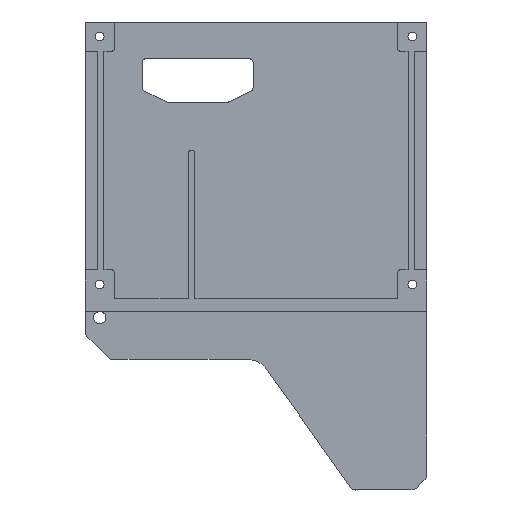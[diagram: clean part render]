
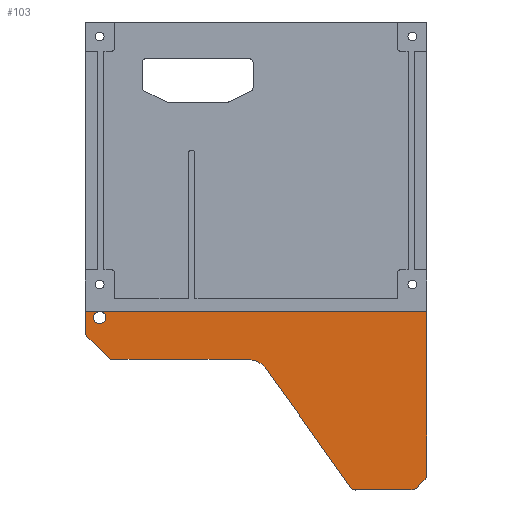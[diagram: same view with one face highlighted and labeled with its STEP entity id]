
A CAD part, top view. The second image highlights one B-rep face of the part: STEP entity #103.
In plain terms, the highlighted planar face has unit normal (0, 0, 1).
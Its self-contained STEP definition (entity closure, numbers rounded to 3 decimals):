
#103=ADVANCED_FACE('',(#182),#1503,.T.);
#182=FACE_OUTER_BOUND('',#272,.T.);
#272=EDGE_LOOP('',(#723,#724,#725,#726,#727,#728,#729,#730,#731,#732,#733,
#734,#735,#736,#737,#738,#739,#740));
#723=ORIENTED_EDGE('',*,*,#852,.F.);
#724=ORIENTED_EDGE('',*,*,#857,.T.);
#725=ORIENTED_EDGE('',*,*,#767,.T.);
#726=ORIENTED_EDGE('',*,*,#968,.T.);
#727=ORIENTED_EDGE('',*,*,#771,.T.);
#728=ORIENTED_EDGE('',*,*,#858,.T.);
#729=ORIENTED_EDGE('',*,*,#859,.F.);
#730=ORIENTED_EDGE('',*,*,#860,.T.);
#731=ORIENTED_EDGE('',*,*,#861,.F.);
#732=ORIENTED_EDGE('',*,*,#862,.T.);
#733=ORIENTED_EDGE('',*,*,#863,.F.);
#734=ORIENTED_EDGE('',*,*,#864,.F.);
#735=ORIENTED_EDGE('',*,*,#865,.F.);
#736=ORIENTED_EDGE('',*,*,#866,.T.);
#737=ORIENTED_EDGE('',*,*,#867,.F.);
#738=ORIENTED_EDGE('',*,*,#868,.T.);
#739=ORIENTED_EDGE('',*,*,#869,.T.);
#740=ORIENTED_EDGE('',*,*,#948,.T.);
#767=EDGE_CURVE('',#1297,#1298,#1005,.T.);
#771=EDGE_CURVE('',#1302,#1301,#1007,.T.);
#852=EDGE_CURVE('',#1386,#1380,#1188,.T.);
#857=EDGE_CURVE('',#1386,#1297,#1193,.T.);
#858=EDGE_CURVE('',#1301,#1374,#1194,.T.);
#859=EDGE_CURVE('',#1373,#1374,#1195,.T.);
#860=EDGE_CURVE('',#1373,#1366,#992,.T.);
#861=EDGE_CURVE('',#1365,#1366,#1196,.T.);
#862=EDGE_CURVE('',#1365,#1316,#1020,.T.);
#863=EDGE_CURVE('',#1315,#1316,#1197,.T.);
#864=EDGE_CURVE('',#1318,#1315,#1198,.T.);
#865=EDGE_CURVE('',#1350,#1318,#993,.T.);
#866=EDGE_CURVE('',#1350,#1352,#994,.T.);
#867=EDGE_CURVE('',#1351,#1352,#1199,.T.);
#868=EDGE_CURVE('',#1351,#1391,#1021,.T.);
#869=EDGE_CURVE('',#1391,#1392,#1200,.T.);
#948=EDGE_CURVE('',#1392,#1380,#1042,.T.);
#968=EDGE_CURVE('',#1298,#1302,#1051,.T.);
#992=(
BOUNDED_CURVE()
B_SPLINE_CURVE(2,(#2608,#2609,#2610),.UNSPECIFIED.,.F.,.F.)
B_SPLINE_CURVE_WITH_KNOTS((3,3),(0.,5.261),.UNSPECIFIED.)
CURVE()
GEOMETRIC_REPRESENTATION_ITEM()
RATIONAL_B_SPLINE_CURVE((1.,0.924,1.))
REPRESENTATION_ITEM('')
);
#993=(
BOUNDED_CURVE()
B_SPLINE_CURVE(2,(#2621,#2622,#2623,#2624,#2625,#2626,#2627),
 .UNSPECIFIED.,.F.,.F.)
B_SPLINE_CURVE_WITH_KNOTS((3,2,2,3),(-205.776,-57.298,
-31.017,0.),.UNSPECIFIED.)
CURVE()
GEOMETRIC_REPRESENTATION_ITEM()
RATIONAL_B_SPLINE_CURVE((1.,1.,1.,0.888,1.,1.,1.))
REPRESENTATION_ITEM('')
);
#994=(
BOUNDED_CURVE()
B_SPLINE_CURVE(2,(#2628,#2629,#2630),.UNSPECIFIED.,.F.,.F.)
B_SPLINE_CURVE_WITH_KNOTS((3,3),(0.,6.57),.UNSPECIFIED.)
CURVE()
GEOMETRIC_REPRESENTATION_ITEM()
RATIONAL_B_SPLINE_CURVE((1.,0.888,1.))
REPRESENTATION_ITEM('')
);
#1005=TRIMMED_CURVE($,#1065,(#2299),(#2300),.T.,.CARTESIAN.);
#1007=TRIMMED_CURVE($,#1067,(#2309),(#2310),.T.,.CARTESIAN.);
#1020=TRIMMED_CURVE($,#1080,(#2615),(#2616),.T.,.CARTESIAN.);
#1021=TRIMMED_CURVE($,#1081,(#2634),(#2635),.T.,.CARTESIAN.);
#1042=TRIMMED_CURVE($,#1102,(#2816),(#2817),.T.,.CARTESIAN.);
#1051=TRIMMED_CURVE($,#1111,(#2865),(#2866),.T.,.CARTESIAN.);
#1065=CIRCLE('',#1670,6.35);
#1067=CIRCLE('',#1672,6.35);
#1080=CIRCLE('',#1685,6.35);
#1081=CIRCLE('',#1686,6.35);
#1102=CIRCLE('',#1707,6.35);
#1111=CIRCLE('',#1716,6.35);
#1188=B_SPLINE_CURVE_WITH_KNOTS('',1,(#2592,#2593),.UNSPECIFIED.,.F.,.F.,
(2,2),(0.,168.57),.UNSPECIFIED.);
#1193=B_SPLINE_CURVE_WITH_KNOTS('',1,(#2602,#2603),.UNSPECIFIED.,.F.,.F.,
(2,2),(0.,335.661),.UNSPECIFIED.);
#1194=B_SPLINE_CURVE_WITH_KNOTS('',1,(#2604,#2605),.UNSPECIFIED.,.F.,.F.,
(2,2),(0.,13.236),.UNSPECIFIED.);
#1195=B_SPLINE_CURVE_WITH_KNOTS('',1,(#2606,#2607),.UNSPECIFIED.,.F.,.F.,
(2,2),(-20.832,0.),.UNSPECIFIED.);
#1196=B_SPLINE_CURVE_WITH_KNOTS('',1,(#2611,#2612,#2613),.UNSPECIFIED.,
 .F.,.F.,(2,1,2),(-31.279,-26.821,0.),.UNSPECIFIED.);
#1197=B_SPLINE_CURVE_WITH_KNOTS('',1,(#2617,#2618),.UNSPECIFIED.,.F.,.F.,
(2,2),(-34.606,0.),.UNSPECIFIED.);
#1198=B_SPLINE_CURVE_WITH_KNOTS('',1,(#2619,#2620),.UNSPECIFIED.,.F.,.F.,
(2,2),(-73.025,0.),.UNSPECIFIED.);
#1199=B_SPLINE_CURVE_WITH_KNOTS('',1,(#2631,#2632),.UNSPECIFIED.,.F.,.F.,
(2,2),(-58.285,0.),.UNSPECIFIED.);
#1200=B_SPLINE_CURVE_WITH_KNOTS('',1,(#2636,#2637),.UNSPECIFIED.,.F.,.F.,
(2,2),(0.,12.7),.UNSPECIFIED.);
#1297=VERTEX_POINT('',#2110);
#1298=VERTEX_POINT('',#2111);
#1301=VERTEX_POINT('',#2114);
#1302=VERTEX_POINT('',#2115);
#1315=VERTEX_POINT('',#2128);
#1316=VERTEX_POINT('',#2129);
#1318=VERTEX_POINT('',#2131);
#1350=VERTEX_POINT('',#2163);
#1351=VERTEX_POINT('',#2164);
#1352=VERTEX_POINT('',#2165);
#1365=VERTEX_POINT('',#2178);
#1366=VERTEX_POINT('',#2179);
#1373=VERTEX_POINT('',#2186);
#1374=VERTEX_POINT('',#2187);
#1380=VERTEX_POINT('',#2193);
#1386=VERTEX_POINT('',#2199);
#1391=VERTEX_POINT('',#2204);
#1392=VERTEX_POINT('',#2205);
#1503=PLANE('',#1661);
#1661=AXIS2_PLACEMENT_3D('',#2081,#1794,$);
#1670=AXIS2_PLACEMENT_3D($,#2298,#1811,#1812);
#1672=AXIS2_PLACEMENT_3D($,#2308,#1815,#1816);
#1685=AXIS2_PLACEMENT_3D($,#2614,#1841,#1842);
#1686=AXIS2_PLACEMENT_3D($,#2633,#1843,#1844);
#1707=AXIS2_PLACEMENT_3D($,#2815,#1885,#1886);
#1716=AXIS2_PLACEMENT_3D($,#2864,#1903,#1904);
#1794=DIRECTION('',(0.,0.,1.));
#1811=DIRECTION('',(0.,0.,-1.));
#1812=DIRECTION('',(0.278,0.961,0.));
#1815=DIRECTION('',(0.,0.,-1.));
#1816=DIRECTION('',(-1.,0.,0.));
#1841=DIRECTION('',(0.,0.,1.));
#1842=DIRECTION('',(-0.707,-0.707,0.));
#1843=DIRECTION('',(0.,0.,1.));
#1844=DIRECTION('',(0.,-1.,0.));
#1885=DIRECTION('',(0.,0.,1.));
#1886=DIRECTION('',(0.707,-0.707,0.));
#1903=DIRECTION('',(0.,0.,-1.));
#1904=DIRECTION('',(1.,0.,0.));
#2081=CARTESIAN_POINT('',(37.555,-61.677,12.7));
#2110=CARTESIAN_POINT('',(-333.361,140.625,12.7));
#2111=CARTESIAN_POINT('',(-328.775,134.525,12.7));
#2114=CARTESIAN_POINT('',(-336.889,140.625,12.7));
#2115=CARTESIAN_POINT('',(-341.475,134.525,12.7));
#2128=CARTESIAN_POINT('',(-287.051,91.325,12.7));
#2129=CARTESIAN_POINT('',(-321.657,91.325,12.7));
#2131=CARTESIAN_POINT('',(-214.026,91.325,12.7));
#2163=CARTESIAN_POINT('',(-76.498,-40.594,12.7));
#2164=CARTESIAN_POINT('',(-13.03,-43.275,12.7));
#2165=CARTESIAN_POINT('',(-71.315,-43.275,12.7));
#2178=CARTESIAN_POINT('',(-326.147,93.185,12.7));
#2179=CARTESIAN_POINT('',(-348.265,115.302,12.7));
#2186=CARTESIAN_POINT('',(-350.125,119.793,12.7));
#2187=CARTESIAN_POINT('',(-350.125,140.625,12.7));
#2193=CARTESIAN_POINT('',(2.3,-27.945,12.7));
#2199=CARTESIAN_POINT('',(2.3,140.625,12.7));
#2204=CARTESIAN_POINT('',(-8.54,-41.415,12.7));
#2205=CARTESIAN_POINT('',(0.44,-32.435,12.7));
#2298=CARTESIAN_POINT('',(-335.125,134.525,12.7));
#2299=CARTESIAN_POINT('',(-333.361,140.625,12.7));
#2300=CARTESIAN_POINT('',(-328.775,134.525,12.7));
#2308=CARTESIAN_POINT('',(-335.125,134.525,12.7));
#2309=CARTESIAN_POINT('',(-341.475,134.525,12.7));
#2310=CARTESIAN_POINT('',(-336.889,140.625,12.7));
#2592=CARTESIAN_POINT('',(2.3,140.625,12.7));
#2593=CARTESIAN_POINT('',(2.3,-27.945,12.7));
#2602=CARTESIAN_POINT('',(2.3,140.625,12.7));
#2603=CARTESIAN_POINT('',(-333.361,140.625,12.7));
#2604=CARTESIAN_POINT('',(-336.889,140.625,12.7));
#2605=CARTESIAN_POINT('',(-350.125,140.625,12.7));
#2606=CARTESIAN_POINT('',(-350.125,119.793,12.7));
#2607=CARTESIAN_POINT('',(-350.125,140.625,12.7));
#2608=CARTESIAN_POINT('',(-350.125,119.793,12.7));
#2609=CARTESIAN_POINT('',(-350.125,117.162,12.7));
#2610=CARTESIAN_POINT('',(-348.265,115.302,12.7));
#2611=CARTESIAN_POINT('',(-326.147,93.185,12.7));
#2612=CARTESIAN_POINT('',(-329.3,96.337,12.7));
#2613=CARTESIAN_POINT('',(-348.265,115.302,12.7));
#2614=CARTESIAN_POINT('',(-321.657,97.675,12.7));
#2615=CARTESIAN_POINT('',(-326.147,93.185,12.7));
#2616=CARTESIAN_POINT('',(-321.657,91.325,12.7));
#2617=CARTESIAN_POINT('',(-287.051,91.325,12.7));
#2618=CARTESIAN_POINT('',(-321.657,91.325,12.7));
#2619=CARTESIAN_POINT('',(-214.026,91.325,12.7));
#2620=CARTESIAN_POINT('',(-287.051,91.325,12.7));
#2621=CARTESIAN_POINT('',(-76.498,-40.594,12.7));
#2622=CARTESIAN_POINT('',(-119.388,20.003,12.7));
#2623=CARTESIAN_POINT('',(-162.277,80.599,12.7));
#2624=CARTESIAN_POINT('',(-169.869,91.325,12.7));
#2625=CARTESIAN_POINT('',(-183.009,91.325,12.7));
#2626=CARTESIAN_POINT('',(-198.518,91.325,12.7));
#2627=CARTESIAN_POINT('',(-214.026,91.325,12.7));
#2628=CARTESIAN_POINT('',(-76.498,-40.594,12.7));
#2629=CARTESIAN_POINT('',(-74.6,-43.275,12.7));
#2630=CARTESIAN_POINT('',(-71.315,-43.275,12.7));
#2631=CARTESIAN_POINT('',(-13.03,-43.275,12.7));
#2632=CARTESIAN_POINT('',(-71.315,-43.275,12.7));
#2633=CARTESIAN_POINT('',(-13.03,-36.925,12.7));
#2634=CARTESIAN_POINT('',(-13.03,-43.275,12.7));
#2635=CARTESIAN_POINT('',(-8.54,-41.415,12.7));
#2636=CARTESIAN_POINT('',(-8.54,-41.415,12.7));
#2637=CARTESIAN_POINT('',(0.44,-32.435,12.7));
#2815=CARTESIAN_POINT('',(-4.05,-27.945,12.7));
#2816=CARTESIAN_POINT('',(0.44,-32.435,12.7));
#2817=CARTESIAN_POINT('',(2.3,-27.945,12.7));
#2864=CARTESIAN_POINT('',(-335.125,134.525,12.7));
#2865=CARTESIAN_POINT('',(-328.775,134.525,12.7));
#2866=CARTESIAN_POINT('',(-341.475,134.525,12.7));
